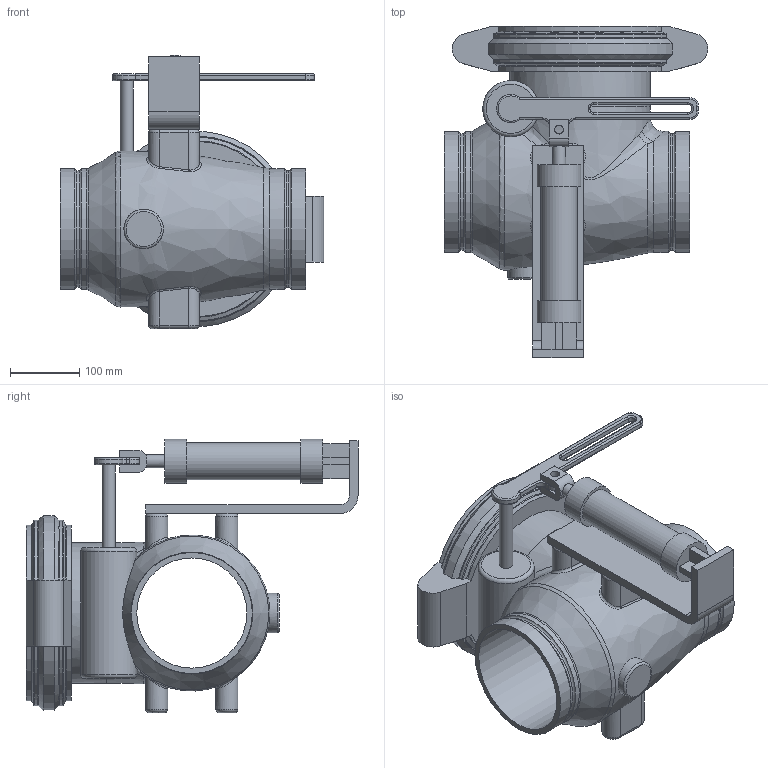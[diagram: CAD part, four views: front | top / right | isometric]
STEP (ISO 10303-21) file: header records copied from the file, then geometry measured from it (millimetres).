
FILE_DESCRIPTION(/* description */ ('VIC AWWA VALVE CHECK AIR CUSHION SERIES 317 (DRG)','CAx-IF Rec.Pracs.---Representation and Presentation of Product Manufacturing Information (PMI)---4.0---2014-10-13'),/* implementation_level */ '2;1');
FILE_NAME(/* name */ 'C:\Users\Vjadhav\Desktop\CAD for Inventor\1\317\STEP\Victaulic_AWWA_Valve Check Air Cushion_Series 317 (DRG)\Victaulic_AWWA_Valve Check Air Cushion_Series 317 (DRG)_6 (150).stp',/* time_stamp */ '2021-10-01T17:33:35+05:00',/* author */ ('jbrannon'),/* organization */ ('Victaulic'),/* preprocessor_version */ 'ST-DEVELOPER v17.2',/* originating_system */ 'Autodesk Inventor 2019',/* authorisation */ '');
FILE_SCHEMA (('AP242_MANAGED_MODEL_BASED_3D_ENGINEERING_MIM_LF { 1 0 10303 442 1 1 4 }'));
Length unit declared in the file: inch
Products named in the file (1): 317-06.0
Bounding box: 381.81 x 480.57 x 395.73 mm (x, y, z)
Volume: 13141372.2 mm3; surface area: 811970.4 mm2
Topology: 1 solids, 1 shells, 234 faces, 606 edges, 383 vertices
Faces by surface type: cylinder 74, plane 71, torus 49, bspline 30, cone 10
Full cylindrical faces by diameter (mm): 12.827 x2, 19.05 x2, 53.34 x1, 57.15 x1, 63.5 x2, 81.28 x1, 159.512 x1, 169.062 x2, 175.26 x4, 203.2 x1
Entity records: 9139 total; most frequent: CARTESIAN_POINT 3156, ORIENTED_EDGE 1214, DIRECTION 1186, EDGE_CURVE 607, AXIS2_PLACEMENT_3D 477, VERTEX_POINT 383, CIRCLE 259, EDGE_LOOP 256
